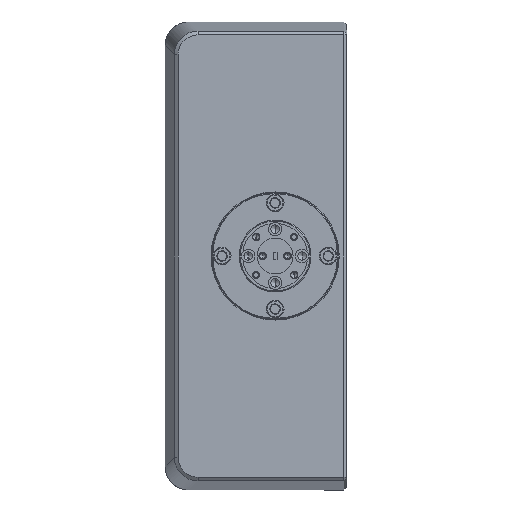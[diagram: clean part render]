
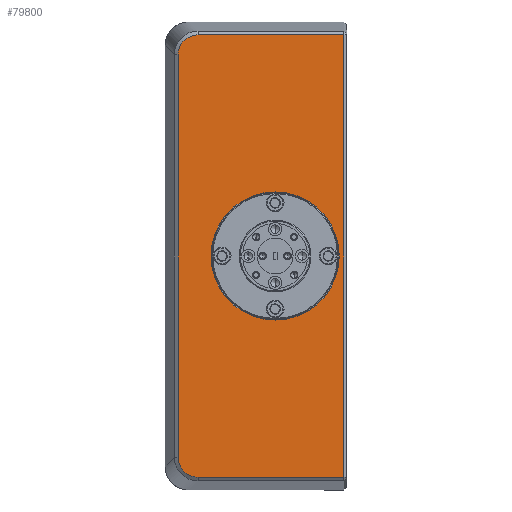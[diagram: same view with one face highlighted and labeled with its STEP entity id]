
A CAD part, left-side view. The second image highlights one B-rep face of the part: STEP entity #79800.
In plain terms, the highlighted planar face has unit normal (-1, 0, 0).
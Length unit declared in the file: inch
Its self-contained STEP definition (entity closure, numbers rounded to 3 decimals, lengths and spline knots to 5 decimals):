
#154 = EDGE_CURVE ( 'NONE', #64622, #55874, #78110, .T. ) ;
#1275 = CARTESIAN_POINT ( 'NONE',  ( -3.68787, 1.18242, 4.14144 ) ) ;
#1657 = CARTESIAN_POINT ( 'NONE',  ( -3.68787, 1.32625, 4.07085 ) ) ;
#1774 = CARTESIAN_POINT ( 'NONE',  ( -3.68787, 1.37761, -0.28802 ) ) ;
#1876 = EDGE_CURVE ( 'NONE', #18082, #52241, #66405, .T. ) ;
#2057 = CARTESIAN_POINT ( 'NONE',  ( -3.68787, 1.1961, 4.14009 ) ) ;
#2176 = CARTESIAN_POINT ( 'NONE',  ( -3.68787, 1.16869, -0.48321 ) ) ;
#2451 = CARTESIAN_POINT ( 'NONE',  ( -3.68787, 1.27358, 4.11398 ) ) ;
#2560 = CARTESIAN_POINT ( 'NONE',  ( -3.68787, 1.37626, -0.30171 ) ) ;
#2840 = EDGE_LOOP ( 'NONE', ( #58561, #63360 ) ) ;
#5506 = ORIENTED_EDGE ( 'NONE', *, *, #62749, .T. ) ;
#7559 = CARTESIAN_POINT ( 'NONE',  ( -3.68787, 0.36253, 2.49911 ) ) ;
#9437 = CARTESIAN_POINT ( 'NONE',  ( -3.68787, 1.19612, -0.48187 ) ) ;
#11042 = B_SPLINE_CURVE_WITH_KNOTS ( 'NONE', 3,
 ( #77153, #1774, #2560, #52005, #26477, #33345, #70275, #52818, #20419, #58099, #51224, #64977, #51607, #14323, #39070, #9437, #27263, #2176 ),
 .UNSPECIFIED., .F., .F.,
 ( 4, 2, 2, 2, 2, 2, 2, 2, 4 ),
 ( 0., 0.125, 0.25, 0.375, 0.5, 0.625, 0.75, 0.875, 1. ),
 .UNSPECIFIED. ) ;
#11992 = ORIENTED_EDGE ( 'NONE', *, *, #68551, .T. ) ;
#12467 = CARTESIAN_POINT ( 'NONE',  ( -3.68787, -0.35747, 4.14143 ) ) ;
#14323 = CARTESIAN_POINT ( 'NONE',  ( -3.68787, 1.2363, -0.47258 ) ) ;
#14745 = VERTEX_POINT ( 'NONE', #16219 ) ;
#16107 = LINE ( 'NONE', #35142, #23485 ) ;
#16219 = CARTESIAN_POINT ( 'NONE',  ( -3.68787, 1.37761, -0.27429 ) ) ;
#18082 = VERTEX_POINT ( 'NONE', #12467 ) ;
#18160 = DIRECTION ( 'NONE',  ( 0., 1., 0. ) ) ;
#19094 = EDGE_LOOP ( 'NONE', ( #30552, #48757, #5506, #64357, #11992, #48789 ) ) ;
#20308 = CARTESIAN_POINT ( 'NONE',  ( -3.68787, 1.29646, 4.09873 ) ) ;
#20419 = CARTESIAN_POINT ( 'NONE',  ( -3.68787, 1.32625, -0.41262 ) ) ;
#20715 = VERTEX_POINT ( 'NONE', #71470 ) ;
#21082 = CARTESIAN_POINT ( 'NONE',  ( -3.68787, 1.37092, 3.98704 ) ) ;
#21320 = VECTOR ( 'NONE', #18160, 39.37008 ) ;
#22208 = CARTESIAN_POINT ( 'NONE',  ( -3.68787, -0.35747, -0.48321 ) ) ;
#23485 = VECTOR ( 'NONE', #58280, 39.37008 ) ;
#23580 = CARTESIAN_POINT ( 'NONE',  ( -3.68787, -0.35747, 1.82911 ) ) ;
#25503 = VERTEX_POINT ( 'NONE', #22208 ) ;
#25979 = CARTESIAN_POINT ( 'NONE',  ( -3.68787, 1.35015, 4.03741 ) ) ;
#26362 = CARTESIAN_POINT ( 'NONE',  ( -3.68787, 1.37627, 3.95994 ) ) ;
#26477 = CARTESIAN_POINT ( 'NONE',  ( -3.68787, 1.36697, -0.34191 ) ) ;
#27263 = CARTESIAN_POINT ( 'NONE',  ( -3.68787, 1.18246, -0.48321 ) ) ;
#30552 = ORIENTED_EDGE ( 'NONE', *, *, #59178, .T. ) ;
#32087 = B_SPLINE_CURVE_WITH_KNOTS ( 'NONE', 3,
 ( #64467, #1275, #2057, #57984, #70962, #38959, #2451, #20308, #51498, #1657, #37061, #25979, #76228, #39342, #21082, #26362, #50719, #75432 ),
 .UNSPECIFIED., .F., .F.,
 ( 4, 2, 2, 2, 2, 2, 2, 2, 4 ),
 ( 0., 0.125, 0.25, 0.375, 0.5, 0.625, 0.75, 0.875, 1. ),
 .UNSPECIFIED. ) ;
#32600 = EDGE_CURVE ( 'NONE', #44505, #25503, #16107, .T. ) ;
#33345 = CARTESIAN_POINT ( 'NONE',  ( -3.68787, 1.35658, -0.36712 ) ) ;
#34012 = DIRECTION ( 'NONE',  ( 0., 0., 1. ) ) ;
#34464 = EDGE_CURVE ( 'NONE', #20715, #14745, #61677, .T. ) ;
#34469 = CARTESIAN_POINT ( 'NONE',  ( -3.68787, 1.16869, -0.48321 ) ) ;
#34896 = FACE_OUTER_BOUND ( 'NONE', #19094, .T. ) ;
#35142 = CARTESIAN_POINT ( 'NONE',  ( -3.68787, 0.56253, -0.48321 ) ) ;
#35303 = DIRECTION ( 'NONE',  ( 0., 1., 0. ) ) ;
#37061 = CARTESIAN_POINT ( 'NONE',  ( -3.68787, 1.3349, 4.06028 ) ) ;
#37851 = EDGE_CURVE ( 'NONE', #55874, #64622, #80228, .T. ) ;
#38959 = CARTESIAN_POINT ( 'NONE',  ( -3.68787, 1.26151, 4.12041 ) ) ;
#39070 = CARTESIAN_POINT ( 'NONE',  ( -3.68787, 1.22321, -0.47652 ) ) ;
#39342 = CARTESIAN_POINT ( 'NONE',  ( -3.68787, 1.36698, 4.00013 ) ) ;
#40526 = CARTESIAN_POINT ( 'NONE',  ( -3.68787, 0.36253, 1.82911 ) ) ;
#40627 = LINE ( 'NONE', #23580, #67150 ) ;
#44118 = CARTESIAN_POINT ( 'NONE',  ( -3.68787, 1.16869, 4.14143 ) ) ;
#44505 = VERTEX_POINT ( 'NONE', #34469 ) ;
#46446 = CARTESIAN_POINT ( 'NONE',  ( -3.68787, 0.36253, 1.82911 ) ) ;
#46829 = CARTESIAN_POINT ( 'NONE',  ( -3.68787, 0.36253, 1.15911 ) ) ;
#47478 = DIRECTION ( 'NONE',  ( 1., 0., 0. ) ) ;
#48757 = ORIENTED_EDGE ( 'NONE', *, *, #32600, .T. ) ;
#48789 = ORIENTED_EDGE ( 'NONE', *, *, #34464, .T. ) ;
#49095 = DIRECTION ( 'NONE',  ( 0., 0., -1. ) ) ;
#49153 = AXIS2_PLACEMENT_3D ( 'NONE', #46446, #54137, #71199 ) ;
#50719 = CARTESIAN_POINT ( 'NONE',  ( -3.68787, 1.37761, 3.94628 ) ) ;
#51224 = CARTESIAN_POINT ( 'NONE',  ( -3.68787, 1.29646, -0.4405 ) ) ;
#51498 = CARTESIAN_POINT ( 'NONE',  ( -3.68787, 1.30702, 4.09007 ) ) ;
#51607 = CARTESIAN_POINT ( 'NONE',  ( -3.68787, 1.26152, -0.46218 ) ) ;
#52005 = CARTESIAN_POINT ( 'NONE',  ( -3.68787, 1.37092, -0.32879 ) ) ;
#52241 = VERTEX_POINT ( 'NONE', #44118 ) ;
#52818 = CARTESIAN_POINT ( 'NONE',  ( -3.68787, 1.3349, -0.40206 ) ) ;
#54137 = DIRECTION ( 'NONE',  ( -1., 0., 0. ) ) ;
#54935 = VECTOR ( 'NONE', #49095, 39.37008 ) ;
#55587 = CARTESIAN_POINT ( 'NONE',  ( -3.68787, 1.37761, 1.82911 ) ) ;
#55874 = VERTEX_POINT ( 'NONE', #7559 ) ;
#57984 = CARTESIAN_POINT ( 'NONE',  ( -3.68787, 1.22318, 4.13475 ) ) ;
#58099 = CARTESIAN_POINT ( 'NONE',  ( -3.68787, 1.30703, -0.43186 ) ) ;
#58280 = DIRECTION ( 'NONE',  ( 0., -1., 0. ) ) ;
#58561 = ORIENTED_EDGE ( 'NONE', *, *, #37851, .F. ) ;
#59178 = EDGE_CURVE ( 'NONE', #14745, #44505, #11042, .T. ) ;
#59644 = PLANE ( 'NONE',  #60686 ) ;
#60686 = AXIS2_PLACEMENT_3D ( 'NONE', #78301, #47478, #35303 ) ;
#61677 = LINE ( 'NONE', #55587, #54935 ) ;
#62749 = EDGE_CURVE ( 'NONE', #25503, #18082, #40627, .T. ) ;
#63360 = ORIENTED_EDGE ( 'NONE', *, *, #154, .F. ) ;
#64357 = ORIENTED_EDGE ( 'NONE', *, *, #1876, .T. ) ;
#64467 = CARTESIAN_POINT ( 'NONE',  ( -3.68787, 1.16869, 4.14143 ) ) ;
#64622 = VERTEX_POINT ( 'NONE', #46829 ) ;
#64852 = DIRECTION ( 'NONE',  ( -1., 0., 0. ) ) ;
#64977 = CARTESIAN_POINT ( 'NONE',  ( -3.68787, 1.27358, -0.45575 ) ) ;
#66405 = LINE ( 'NONE', #67631, #21320 ) ;
#67150 = VECTOR ( 'NONE', #71051, 39.37008 ) ;
#67631 = CARTESIAN_POINT ( 'NONE',  ( -3.68787, 0.56253, 4.14143 ) ) ;
#68551 = EDGE_CURVE ( 'NONE', #52241, #20715, #32087, .T. ) ;
#70275 = CARTESIAN_POINT ( 'NONE',  ( -3.68787, 1.35015, -0.37918 ) ) ;
#70962 = CARTESIAN_POINT ( 'NONE',  ( -3.68787, 1.23631, 4.13079 ) ) ;
#71051 = DIRECTION ( 'NONE',  ( 0., 0., 1. ) ) ;
#71199 = DIRECTION ( 'NONE',  ( 0., 0., 1. ) ) ;
#71470 = CARTESIAN_POINT ( 'NONE',  ( -3.68787, 1.37761, 3.93251 ) ) ;
#72913 = AXIS2_PLACEMENT_3D ( 'NONE', #40526, #64852, #34012 ) ;
#75432 = CARTESIAN_POINT ( 'NONE',  ( -3.68787, 1.37761, 3.93251 ) ) ;
#76228 = CARTESIAN_POINT ( 'NONE',  ( -3.68787, 1.35657, 4.02535 ) ) ;
#77153 = CARTESIAN_POINT ( 'NONE',  ( -3.68787, 1.37761, -0.27429 ) ) ;
#77902 = FACE_BOUND ( 'NONE', #2840, .T. ) ;
#78110 = CIRCLE ( 'NONE', #72913, 0.67 ) ;
#78301 = CARTESIAN_POINT ( 'NONE',  ( -3.68787, 0.56253, 1.82911 ) ) ;
#79800 = ADVANCED_FACE ( 'NONE', ( #77902, #34896 ), #59644, .F. ) ;
#80228 = CIRCLE ( 'NONE', #49153, 0.67 ) ;
